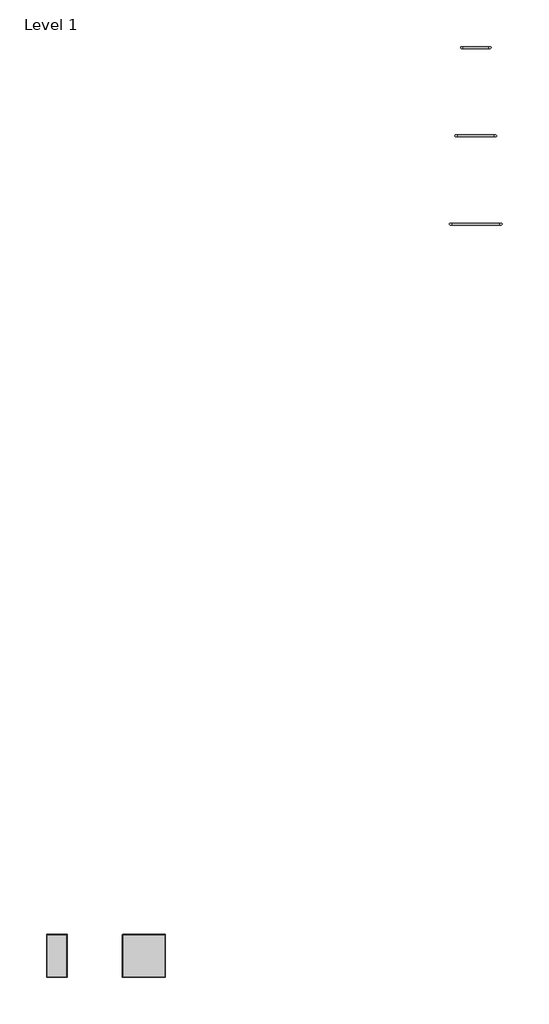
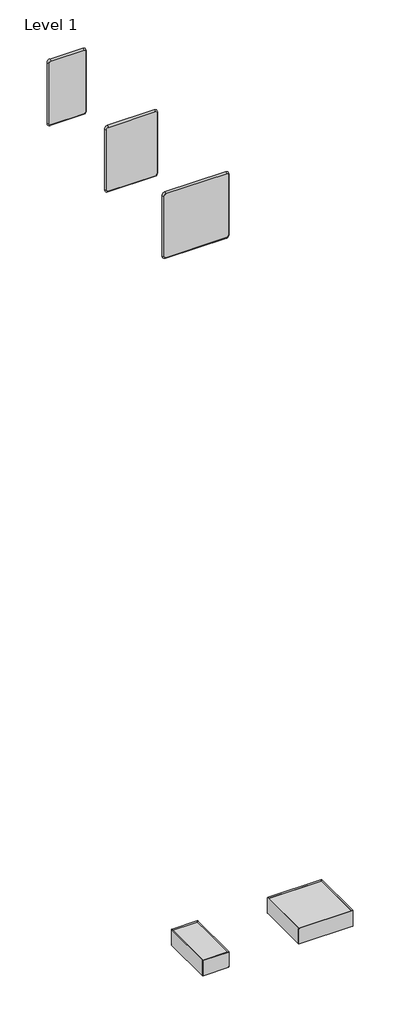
# One storey, incomplete: 5 furniture elements.
"""IFC4 building model written with IfcOpenShell, lengths in millimetres."""

from ifc_helpers import new_model, si_unit, origin, place, context, project, spatial, transform, mapped, element, save
from components import furniture_6adaf966, furniture_e75e87eb, furniture_51609133, large_table_a205c7c4, small_table_ebca47c8

model = new_model("IFC4")

# Units and contexts
model_context = context("Model", 3, world=origin())
ifc_project = project(units=[si_unit("LENGTHUNIT", "METRE", prefix="MILLI")], contexts=[model_context])

# Site, building, storey
site = spatial("IfcSite", under=ifc_project)
building = spatial("IfcBuilding", under=site)
storey = spatial("IfcBuildingStorey", under=building, Name="Level 1", Elevation=0.0)

# Furniture
placement = place(None, origin())
furniture_shape = furniture_6adaf966(model_context)
element("IfcFurniture", 1, ObjectType="Stylex - Yoom Screen : 25\"", at=placement, inside=storey, context=model_context, shape_type="MappedRepresentation", body=[
    mapped(furniture_shape, transform((3854.0759925, 1468.0692093, 0.0), x_axis=(1.0, 0.0, 0.0), y_axis=(0.0, 1.0, 0.0), z_axis=(0.0, 0.0, 1.0))),
])
furniture_2_shape = furniture_e75e87eb(model_context)
element("IfcFurniture", 2, ObjectType="Stylex - Yoom Screen : 34\"", at=placement, inside=storey, context=model_context, shape_type="MappedRepresentation", body=[
    mapped(furniture_2_shape, transform((3854.0759925, -358.2600083, 0.0), x_axis=(1.0, 0.0, 0.0), y_axis=(0.0, 1.0, 0.0), z_axis=(0.0, 0.0, 1.0))),
])
furniture_3_shape = furniture_51609133(model_context)
element("IfcFurniture", 3, ObjectType="Stylex - Yoom Screen : 43\"", at=placement, inside=storey, context=model_context, shape_type="MappedRepresentation", body=[
    mapped(furniture_3_shape, transform((3854.0759925, -2184.5892259, 0.0), x_axis=(1.0, 0.0, 0.0), y_axis=(0.0, 1.0, 0.0), z_axis=(0.0, 0.0, 1.0))),
])
large_table_shape = large_table_a205c7c4(model_context)
element("IfcFurniture", 4, ObjectType="Stylex - Yoom Table : Large Table", at=placement, inside=storey, context=model_context, shape_type="MappedRepresentation", body=[
    mapped(large_table_shape, transform((-3011.1811503, -17305.7650487, 0.0), x_axis=(1.0, 0.0, 0.0), y_axis=(0.0, 1.0, 0.0), z_axis=(0.0, 0.0, 1.0))),
])
small_table_shape = small_table_ebca47c8(model_context)
element("IfcFurniture", 5, ObjectType="Stylex - Yoom Table : Small Table", at=placement, inside=storey, context=model_context, shape_type="MappedRepresentation", body=[
    mapped(small_table_shape, transform((-4810.9525789, -17305.7650487, 0.0), x_axis=(1.0, 0.0, 0.0), y_axis=(0.0, 1.0, 0.0), z_axis=(0.0, 0.0, 1.0))),
])

save(model, "model.ifc")
